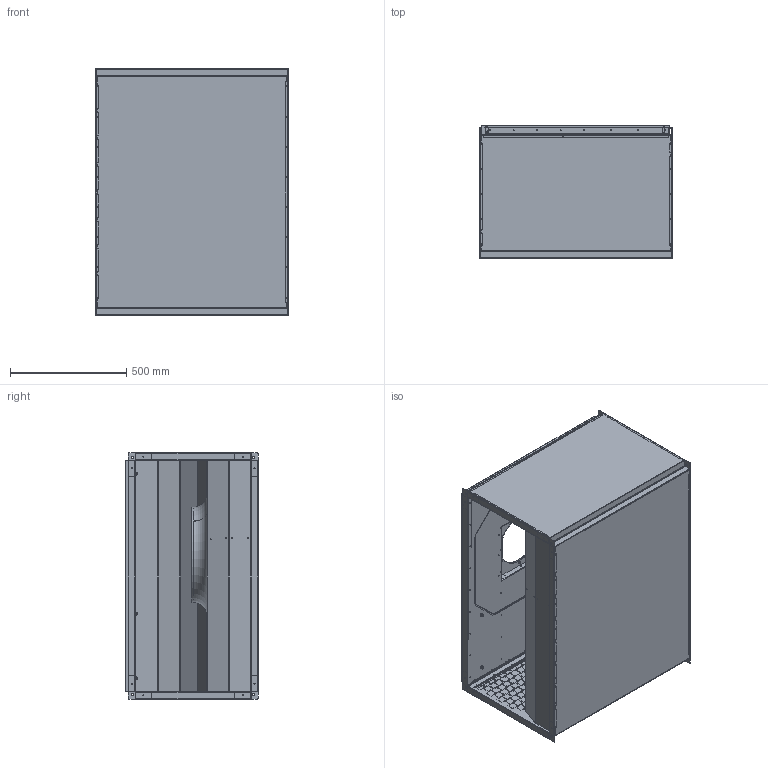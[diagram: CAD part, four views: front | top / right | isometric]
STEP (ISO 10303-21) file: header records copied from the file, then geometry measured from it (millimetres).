
FILE_DESCRIPTION (( 'STEP AP203' ), '1' );
FILE_NAME ('131446-00_KVRI10050EC30.STEP', '2015-05-11T13:01:45', ( '' ), ( '' ), 'SwSTEP 2.0', 'SolidWorks 2012', '' );
FILE_SCHEMA (( 'CONFIG_CONTROL_DESIGN' ));
Products named in the file (1): 131446-00_KVRI10050EC30
Bounding box: 830 x 571.4 x 1062 mm (x, y, z)
Surface area: 10910286 mm2 (no closed solid volume)
Topology: 0 solids, 89 shells, 1767 faces, 13356 edges, 11380 vertices
Faces by surface type: plane 1281, cylinder 464, torus 10, bspline 6, cone 6
Entity records: 128411 total; most frequent: CARTESIAN_POINT 27535, DIRECTION 18855, ORIENTED_EDGE 16437, EDGE_CURVE 13356, VERTEX_POINT 11380, LINE 11247, VECTOR 11247, EDGE_LOOP 4369
